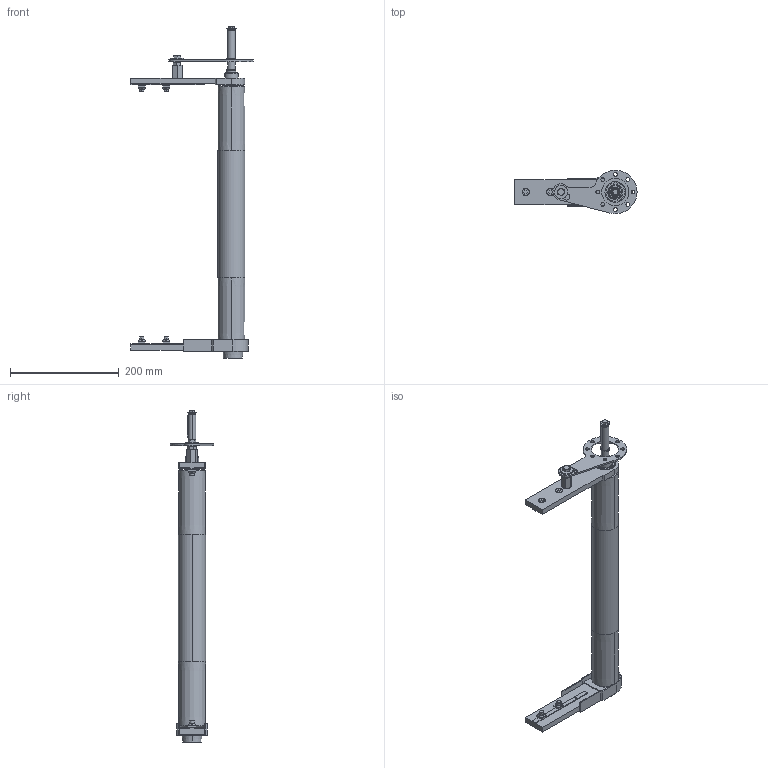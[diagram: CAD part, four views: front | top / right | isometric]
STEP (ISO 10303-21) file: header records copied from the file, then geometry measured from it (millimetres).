
FILE_DESCRIPTION (( 'STEP AP214' ), '1' );
FILE_NAME ('084.050.KD.30.450.STEP', '2019-08-06T09:59:56', ( '' ), ( '' ), 'SwSTEP 2.0', 'SolidWorks 2018', '' );
FILE_SCHEMA (( 'AUTOMOTIVE_DESIGN' ));
Length unit declared in the file: millimetre
Products named in the file (24): CHIAVETTE_A 5x5x40 UNI 6604-69; VITI TE UNI 5739_M8x25 UNI 5739; 084.802.017_084.802.017; 084.302.000 DADI ALUSIC 13x13_084.302.004; VITI TSEI UNI 5933_M4x10 UNI 5933; RONDELLE FASCIA LARGA UNI 6593_6.4x18 UNI 6593; 084.811.004; 084.807.002_084.807.002; Circlip DIN 471 - 14 x 1_Circlip DIN 471 - 14 x 1; GRANI A PUNTA PIATTA UNI 5923_M8x25 UNI 5923; 084.802.023_RIFILATO; 084.050.KD.30.450; 084.807.005; 084.815.129_Default<A macchina>; 084.000.A02_CON DADO; 084.802.027; 084.811.001; DADI ESAGONALI RIBASSATI UNI 5589_M8 UNI 5589; 084.810.001; 084.301.000 VITI ALUSIC_084.301.003; 084.807.003_084.807.003; CHIAVETTE_A 5x5x20 UNI 6604-69; VITI TE UNI 5739_M6x12 UNI 5739; RONDELLE FASCIA LARGA UNI 6593_8.4x24 UNI 6593
Assembly tree (32 placements, depth 3):
  084.050.KD.30.450
    084.807.002_084.807.002
    084.807.003_084.807.003
    084.802.017_084.802.017  x2
    084.811.004
    084.815.129_Default<A macchina>
    084.810.001  x2
    084.301.000 VITI ALUSIC_084.301.003  x4
    084.302.000 DADI ALUSIC 13x13_084.302.004  x4
    084.811.001
    084.000.A02_CON DADO
      084.807.005
      084.802.027
      GRANI A PUNTA PIATTA UNI 5923_M8x25 UNI 5923
      DADI ESAGONALI RIBASSATI UNI 5589_M8 UNI 5589
      RONDELLE FASCIA LARGA UNI 6593_8.4x24 UNI 6593
      VITI TE UNI 5739_M8x25 UNI 5739
    CHIAVETTE_A 5x5x40 UNI 6604-69
    RONDELLE FASCIA LARGA UNI 6593_6.4x18 UNI 6593
    VITI TE UNI 5739_M6x12 UNI 5739
    Circlip DIN 471 - 14 x 1_Circlip DIN 471 - 14 x 1
    CHIAVETTE_A 5x5x20 UNI 6604-69
    084.802.023_RIFILATO
    VITI TSEI UNI 5933_M4x10 UNI 5933  x2
Bounding box: 225 x 80 x 612 mm (x, y, z)
Volume: 628690.8 mm3; surface area: 376695.3 mm2
Topology: 33 solids, 35 shells, 838 faces, 2050 edges, 1320 vertices
Faces by surface type: plane 365, cylinder 277, cone 110, torus 70, sphere 8, bspline 8
Entity records: 20594 total; most frequent: CARTESIAN_POINT 3948, DIRECTION 3421, ORIENTED_EDGE 3096, EDGE_CURVE 1548, AXIS2_PLACEMENT_3D 1333, VERTEX_POINT 1000, LINE 755, VECTOR 755
